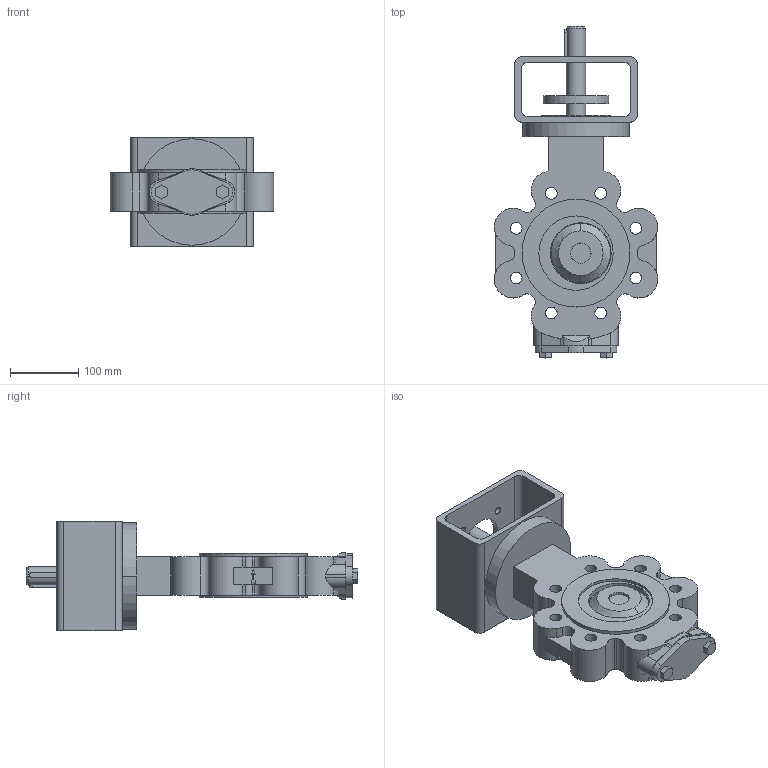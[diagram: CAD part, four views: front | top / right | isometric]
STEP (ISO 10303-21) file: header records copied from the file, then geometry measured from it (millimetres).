
FILE_DESCRIPTION( ( '' ), '1' );
FILE_NAME( 'F:/DE-SHS/TB/OR/04-Sonstiges/daten/files_3d/018_ZETRIX-PN10_freiesWellende/c000006380.stp', '2016-09-01T11:05:42', ( '' ), ( '' ), ' ', ' ', ' ' );
FILE_SCHEMA( ( 'CONFIG_CONTROL_DESIGN' ) );
Length unit declared in the file: millimetre
Products named in the file (1): 1
Bounding box: 239.75 x 486.7 x 160 mm (x, y, z)
Volume: 3802581.3 mm3; surface area: 414252.1 mm2
Topology: 1 solids, 1 shells, 247 faces, 668 edges, 446 vertices
Faces by surface type: cylinder 149, plane 94, cone 4
Entity records: 8428 total; most frequent: CARTESIAN_POINT 1812, DIRECTION 1454, ORIENTED_EDGE 1336, EDGE_CURVE 668, AXIS2_PLACEMENT_3D 556, VERTEX_POINT 446, LINE 342, VECTOR 342
